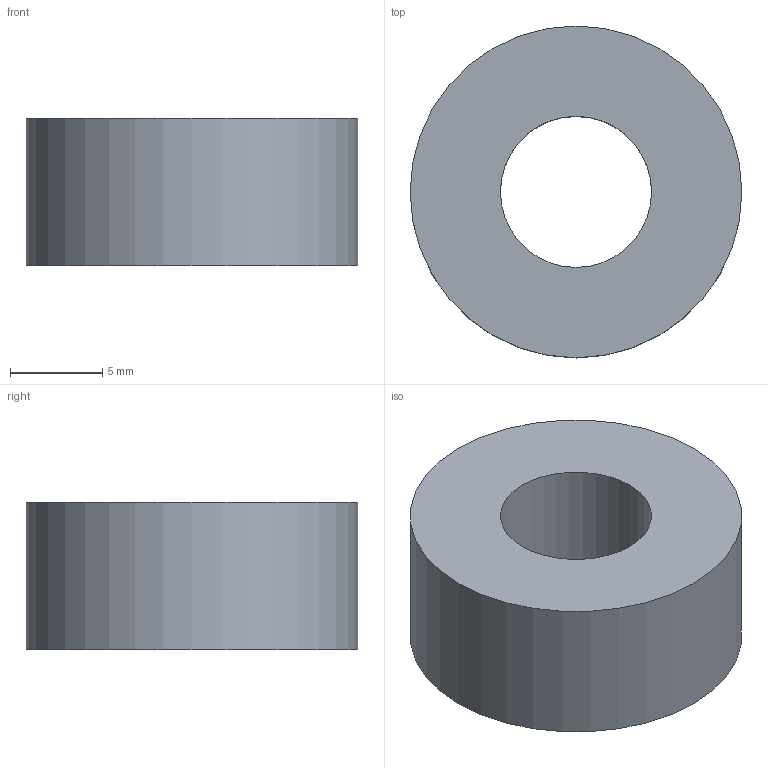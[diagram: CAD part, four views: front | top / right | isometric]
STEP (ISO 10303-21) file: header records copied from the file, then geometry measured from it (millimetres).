
FILE_DESCRIPTION(('Open CASCADE Model'),'2;1');
FILE_NAME('Open CASCADE Shape Model','2026-10-04T01:02:33',('Author'),( 'Open CASCADE'),'Open CASCADE STEP processor 8.0','Open CASCADE 8.0' ,'Unknown');
FILE_SCHEMA(('AUTOMOTIVE_DESIGN { 1 0 10303 214 1 1 1 1 }'));
Length unit declared in the file: millimetre
Products named in the file (1): Open CASCADE STEP translator 8.0 334
Bounding box: 18 x 18 x 8 mm (x, y, z)
Volume: 1613.3 mm3; surface area: 1061.8 mm2
Topology: 1 solids, 1 shells, 4 faces, 6 edges, 4 vertices
Faces by surface type: cylinder 2, plane 2
Full cylindrical faces by diameter (mm): 8.2 x1, 18 x1
Entity records: 186 total; most frequent: DIRECTION 32, CARTESIAN_POINT 27, ORIENTED_EDGE 12, PCURVE 12, DEFINITIONAL_REPRESENTATION 12, LINE 10, VECTOR 10, AXIS2_PLACEMENT_3D 9
